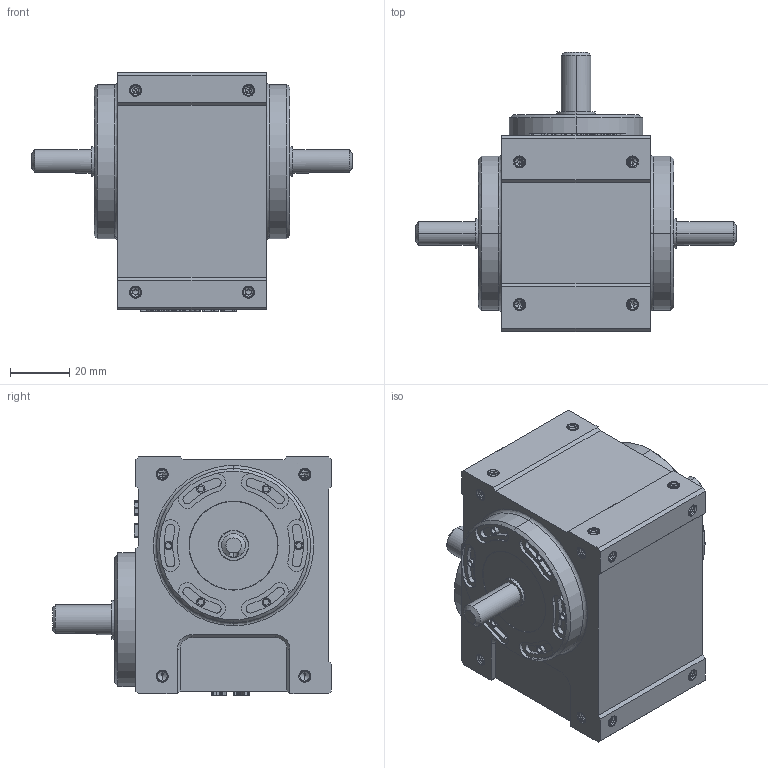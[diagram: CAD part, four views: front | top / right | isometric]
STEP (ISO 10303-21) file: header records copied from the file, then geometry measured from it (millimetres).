
FILE_DESCRIPTION (( 'STEP AP214' ), '1' );
FILE_NAME ('ER-RU25DS英锐凸轮分割器3D标准图纸(电话15062628977)A.STEP', '2019-06-27T02:34:41', ( '微软用户' ), ( '微软中国' ), 'SwSTEP 2.0', 'SolidWorks 2017', '' );
FILE_SCHEMA (( 'AUTOMOTIVE_DESIGN' ));
Length unit declared in the file: millimetre
Products named in the file (1): ER-RU25DS英锐凸轮分割器3D标准图纸(电话15062628977)A
Bounding box: 108 x 94 x 80.5 mm (x, y, z)
Volume: 300177.6 mm3; surface area: 34525.3 mm2
Topology: 1 solids, 1 shells, 1410 faces, 3678 edges, 2380 vertices
Faces by surface type: cylinder 532, plane 399, bspline 353, cone 126
Entity records: 100516 total; most frequent: CARTESIAN_POINT 67093, ORIENTED_EDGE 7308, DIRECTION 4857, EDGE_CURVE 3654, VERTEX_POINT 2380, AXIS2_PLACEMENT_3D 1636, VECTOR 1585, LINE 1585
